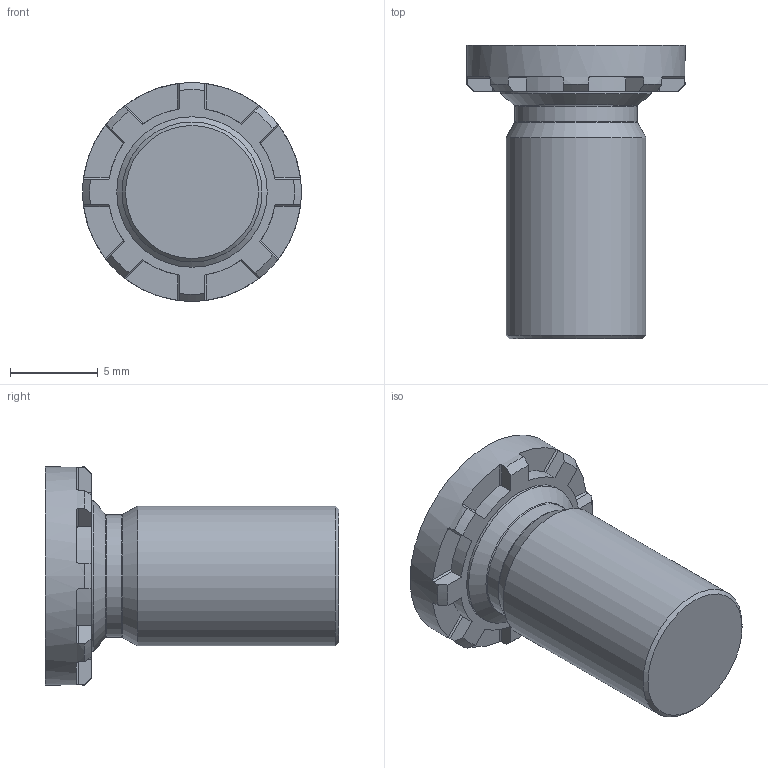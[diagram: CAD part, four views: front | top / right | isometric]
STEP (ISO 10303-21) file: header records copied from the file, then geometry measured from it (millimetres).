
FILE_DESCRIPTION(/* description */ (''),/* implementation_level */ '2;1');
FILE_NAME(/* name */ 'C:\Users\keval.kumar\Desktop\Fastit\Clinch Screw- HFH Range\M8\Clinch Screw-HFH Range_M8x15.stp',/* time_stamp */ '2024-03-12T15:20:29+06:00',/* author */ ('keval.kumar'),/* organization */ (''),/* preprocessor_version */ 'ST-DEVELOPER v18.1',/* originating_system */ 'Autodesk Inventor 2022',/* authorisation */ '');
FILE_SCHEMA (('AUTOMOTIVE_DESIGN { 1 0 10303 214 3 1 1 }'));
Length unit declared in the file: millimetre
Products named in the file (1): Clinch Screw-HFH Range_M8x15
Bounding box: 12.5 x 16.78 x 12.5 mm (x, y, z)
Volume: 987.4 mm3; surface area: 707.9 mm2
Topology: 1 solids, 1 shells, 68 faces, 193 edges, 128 vertices
Faces by surface type: plane 43, cylinder 12, cone 11, torus 2
Full cylindrical faces by diameter (mm): 7 x1, 8 x1, 8.6 x1, 12.5 x1
Entity records: 2278 total; most frequent: CARTESIAN_POINT 422, DIRECTION 405, ORIENTED_EDGE 386, EDGE_CURVE 193, AXIS2_PLACEMENT_3D 159, VERTEX_POINT 128, LINE 87, VECTOR 87
